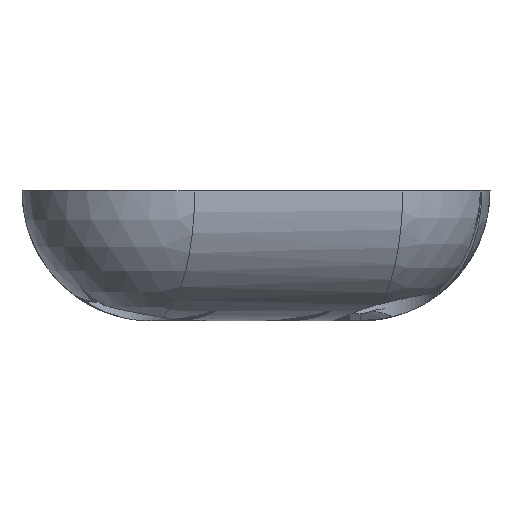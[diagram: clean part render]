
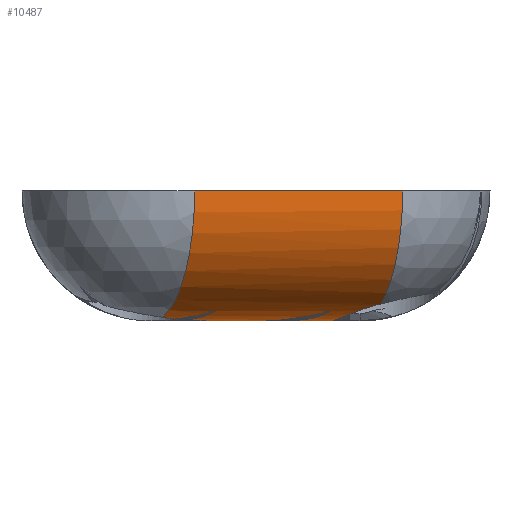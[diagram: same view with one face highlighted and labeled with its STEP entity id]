
A CAD part, front view. The second image highlights one B-rep face of the part: STEP entity #10487.
In plain terms, the highlighted cylindrical face has radius 20 mm (diameter 40 mm), a partial arc.
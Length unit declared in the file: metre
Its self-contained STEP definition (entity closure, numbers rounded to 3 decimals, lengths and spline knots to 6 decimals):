
#609=ELLIPSE('',#11235,0.035632,0.02);
#610=ELLIPSE('',#11236,0.036229,0.02);
#611=ELLIPSE('',#11237,0.034801,0.02);
#612=ELLIPSE('',#11238,0.154407,0.02);
#613=ELLIPSE('',#11239,0.035632,0.02);
#614=ELLIPSE('',#11240,0.036229,0.02);
#615=ELLIPSE('',#11241,0.034801,0.02);
#675=CIRCLE('',#11142,0.02);
#707=CIRCLE('',#11228,0.02);
#876=LINE('',#14927,#1592);
#933=LINE('',#15046,#1649);
#940=LINE('',#15065,#1656);
#1592=VECTOR('',#11920,1.);
#1649=VECTOR('',#12011,1.);
#1656=VECTOR('',#12026,1.);
#2751=ORIENTED_EDGE('',*,*,#5968,.F.);
#2752=ORIENTED_EDGE('',*,*,#5969,.F.);
#2753=ORIENTED_EDGE('',*,*,#5970,.F.);
#2754=ORIENTED_EDGE('',*,*,#5971,.F.);
#2755=ORIENTED_EDGE('',*,*,#5916,.F.);
#2756=ORIENTED_EDGE('',*,*,#5972,.F.);
#2757=ORIENTED_EDGE('',*,*,#5973,.F.);
#2758=ORIENTED_EDGE('',*,*,#5974,.F.);
#2759=ORIENTED_EDGE('',*,*,#5925,.F.);
#2760=ORIENTED_EDGE('',*,*,#5975,.T.);
#2761=ORIENTED_EDGE('',*,*,#5590,.F.);
#2762=ORIENTED_EDGE('',*,*,#5851,.T.);
#2763=ORIENTED_EDGE('',*,*,#5953,.T.);
#2764=ORIENTED_EDGE('',*,*,#5976,.T.);
#5590=EDGE_CURVE('',#7232,#7233,#675,.T.);
#5851=EDGE_CURVE('',#7232,#7461,#876,.T.);
#5916=EDGE_CURVE('',#7506,#7507,#933,.F.);
#5925=EDGE_CURVE('',#7514,#7512,#940,.F.);
#5953=EDGE_CURVE('',#7461,#7540,#707,.T.);
#5968=EDGE_CURVE('',#7547,#7548,#609,.F.);
#5969=EDGE_CURVE('',#7549,#7547,#610,.F.);
#5970=EDGE_CURVE('',#7550,#7549,#611,.F.);
#5971=EDGE_CURVE('',#7507,#7550,#612,.F.);
#5972=EDGE_CURVE('',#7551,#7506,#613,.F.);
#5973=EDGE_CURVE('',#7552,#7551,#614,.F.);
#5974=EDGE_CURVE('',#7512,#7552,#615,.F.);
#5975=EDGE_CURVE('',#7514,#7233,#8303,.T.);
#5976=EDGE_CURVE('',#7540,#7548,#8304,.T.);
#7232=VERTEX_POINT('',#14027);
#7233=VERTEX_POINT('',#14029);
#7461=VERTEX_POINT('',#14926);
#7506=VERTEX_POINT('',#15045);
#7507=VERTEX_POINT('',#15047);
#7512=VERTEX_POINT('',#15060);
#7514=VERTEX_POINT('',#15064);
#7540=VERTEX_POINT('',#15131);
#7547=VERTEX_POINT('',#15216);
#7548=VERTEX_POINT('',#15217);
#7549=VERTEX_POINT('',#15219);
#7550=VERTEX_POINT('',#15221);
#7551=VERTEX_POINT('',#15224);
#7552=VERTEX_POINT('',#15226);
#8303=B_SPLINE_CURVE_WITH_KNOTS('',3,(#15228,#15229,#15230,#15231,#15232,
#15233),.UNSPECIFIED.,.F.,.F.,(4,1,1,4),(0.006141,0.009192,
0.012243,0.018345),.UNSPECIFIED.);
#8304=B_SPLINE_CURVE_WITH_KNOTS('',3,(#15234,#15235,#15236,#15237),
 .UNSPECIFIED.,.F.,.F.,(4,4),(0.013018,0.015858),
 .UNSPECIFIED.);
#8950=EDGE_LOOP('',(#2751,#2752,#2753,#2754,#2755,#2756,#2757,#2758,#2759,
#2760,#2761,#2762,#2763,#2764));
#9675=FACE_BOUND('',#8950,.T.);
#10369=CYLINDRICAL_SURFACE('',#11234,0.02);
#10487=ADVANCED_FACE('',(#9675),#10369,.T.);
#11142=AXIS2_PLACEMENT_3D('',#14028,#11689,#11690);
#11228=AXIS2_PLACEMENT_3D('',#15132,#12069,#12070);
#11234=AXIS2_PLACEMENT_3D('',#15214,#12081,#12082);
#11235=AXIS2_PLACEMENT_3D('',#15215,#12083,#12084);
#11236=AXIS2_PLACEMENT_3D('',#15218,#12085,#12086);
#11237=AXIS2_PLACEMENT_3D('',#15220,#12087,#12088);
#11238=AXIS2_PLACEMENT_3D('',#15222,#12089,#12090);
#11239=AXIS2_PLACEMENT_3D('',#15223,#12091,#12092);
#11240=AXIS2_PLACEMENT_3D('',#15225,#12093,#12094);
#11241=AXIS2_PLACEMENT_3D('',#15227,#12095,#12096);
#11689=DIRECTION('',(0.945,0.328,0.));
#11690=DIRECTION('',(-0.328,0.945,0.));
#11920=DIRECTION('',(-0.945,-0.328,0.));
#12011=DIRECTION('',(0.945,0.328,0.));
#12026=DIRECTION('',(0.945,0.328,0.));
#12069=DIRECTION('',(0.945,0.328,0.));
#12070=DIRECTION('',(-0.328,0.945,0.));
#12081=DIRECTION('',(-0.945,-0.328,0.));
#12082=DIRECTION('',(0.328,-0.945,0.));
#12083=DIRECTION('',(-0.366,-0.658,0.658));
#12084=DIRECTION('',(-0.893,0.05,-0.446));
#12085=DIRECTION('',(0.36,0.647,0.672));
#12086=DIRECTION('',(-0.895,0.035,0.445));
#12087=DIRECTION('',(0.374,0.674,-0.637));
#12088=DIRECTION('',(-0.891,0.072,-0.447));
#12089=DIRECTION('',(0.366,-0.658,0.658));
#12090=DIRECTION('',(-0.905,-0.417,0.086));
#12091=DIRECTION('',(-0.366,-0.658,0.658));
#12092=DIRECTION('',(-0.893,0.05,-0.446));
#12093=DIRECTION('',(0.36,0.647,0.672));
#12094=DIRECTION('',(-0.895,0.035,0.445));
#12095=DIRECTION('',(0.374,0.674,-0.637));
#12096=DIRECTION('',(-0.891,0.072,-0.447));
#14027=CARTESIAN_POINT('',(0.14556,-0.107476,-0.776));
#14028=CARTESIAN_POINT('',(0.139,-0.088582,-0.776));
#14029=CARTESIAN_POINT('',(0.142259,-0.09797,-0.793357));
#14926=CARTESIAN_POINT('',(0.11356,-0.118587,-0.776));
#14927=CARTESIAN_POINT('',(0.123,-0.115309,-0.776));
#15045=CARTESIAN_POINT('',(0.123918,-0.093819,-0.796));
#15046=CARTESIAN_POINT('',(0.107,-0.099693,-0.796));
#15047=CARTESIAN_POINT('',(0.119022,-0.095519,-0.796));
#15060=CARTESIAN_POINT('',(0.127181,-0.092686,-0.796));
#15064=CARTESIAN_POINT('',(0.134756,-0.090056,-0.796));
#15065=CARTESIAN_POINT('',(0.107,-0.099693,-0.796));
#15131=CARTESIAN_POINT('',(0.108571,-0.104218,-0.795418));
#15132=CARTESIAN_POINT('',(0.107,-0.099693,-0.776));
#15214=CARTESIAN_POINT('',(0.11644,-0.096416,-0.776));
#15215=CARTESIAN_POINT('',(0.128349,-0.092281,-0.776));
#15216=CARTESIAN_POINT('',(0.116767,-0.104346,-0.7945));
#15217=CARTESIAN_POINT('',(0.110295,-0.101986,-0.795735));
#15218=CARTESIAN_POINT('',(0.086581,-0.106784,-0.776));
#15219=CARTESIAN_POINT('',(0.111274,-0.099796,-0.795944));
#15220=CARTESIAN_POINT('',(0.130399,-0.091569,-0.776));
#15221=CARTESIAN_POINT('',(0.111249,-0.099783,-0.795945));
#15222=CARTESIAN_POINT('',(0.023022,-0.128852,-0.776));
#15223=CARTESIAN_POINT('',(0.146072,-0.086127,-0.776));
#15224=CARTESIAN_POINT('',(0.13449,-0.098193,-0.7945));
#15225=CARTESIAN_POINT('',(0.104304,-0.10063,-0.776));
#15226=CARTESIAN_POINT('',(0.128997,-0.093642,-0.795944));
#15227=CARTESIAN_POINT('',(0.148122,-0.085415,-0.776));
#15228=CARTESIAN_POINT('',(0.134756,-0.090056,-0.796));
#15229=CARTESIAN_POINT('',(0.134793,-0.091077,-0.796));
#15230=CARTESIAN_POINT('',(0.135256,-0.093105,-0.795849));
#15231=CARTESIAN_POINT('',(0.137524,-0.096468,-0.794925));
#15232=CARTESIAN_POINT('',(0.14029,-0.097792,-0.793823));
#15233=CARTESIAN_POINT('',(0.142259,-0.09797,-0.793357));
#15234=CARTESIAN_POINT('',(0.108571,-0.104218,-0.795418));
#15235=CARTESIAN_POINT('',(0.109269,-0.103579,-0.79551));
#15236=CARTESIAN_POINT('',(0.109855,-0.102821,-0.795629));
#15237=CARTESIAN_POINT('',(0.110295,-0.101986,-0.795735));
